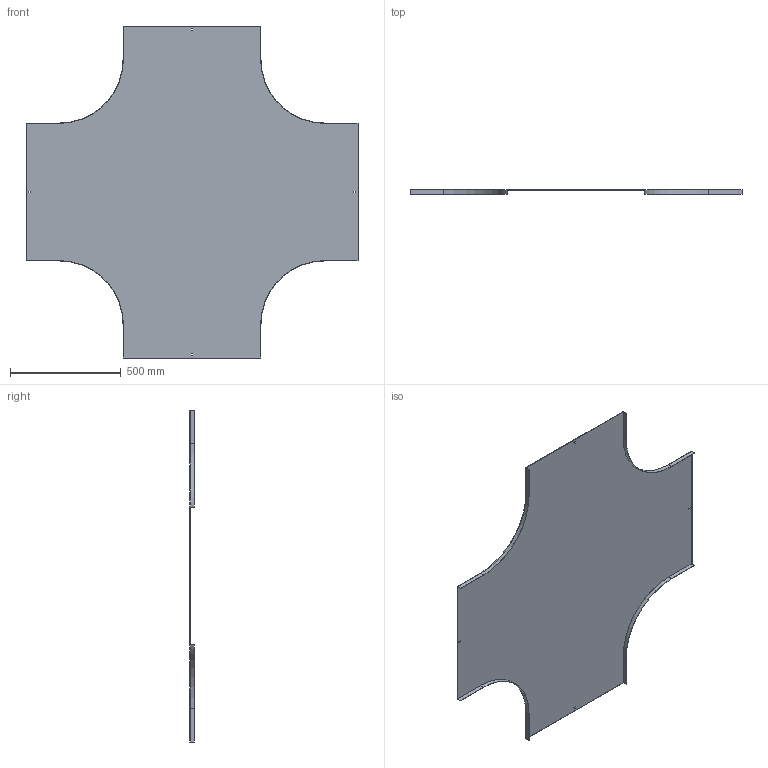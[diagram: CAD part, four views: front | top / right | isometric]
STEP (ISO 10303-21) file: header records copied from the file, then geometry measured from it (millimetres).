
FILE_DESCRIPTION (( 'STEP AP214' ), '1' );
FILE_NAME ('17N3P600.step', '2025-02-21T13:57:10', ( '' ), ( '' ), 'SwSTEP 2.0', 'SolidWorks 2023', '' );
FILE_SCHEMA (( 'AUTOMOTIVE_DESIGN' ));
Length unit declared in the file: millimetre
Products named in the file (1): 17N3P600
Bounding box: 1500 x 20 x 1500 mm (x, y, z)
Volume: 2411859.4 mm3; surface area: 3224477.6 mm2
Topology: 1 solids, 1 shells, 50 faces, 144 edges, 96 vertices
Faces by surface type: plane 42, cylinder 8
Entity records: 1663 total; most frequent: CARTESIAN_POINT 291, ORIENTED_EDGE 288, DIRECTION 262, EDGE_CURVE 144, VECTOR 128, LINE 128, VERTEX_POINT 96, AXIS2_PLACEMENT_3D 67
